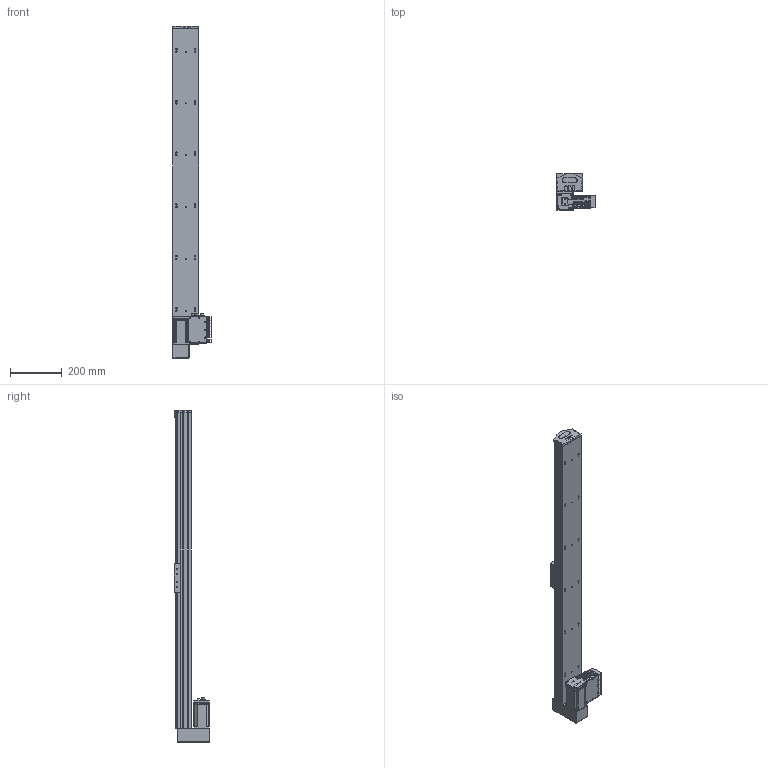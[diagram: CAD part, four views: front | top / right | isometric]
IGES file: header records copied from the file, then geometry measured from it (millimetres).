
Start section: SolidWorks IGES file using analytic representation for surfaces
Global section: file name: C:\Documents and Settings\1EDPI\Mes documents\yanize\S 10 TSH BM\S 10 TSH BM S1000.IGS; native system: SolidWorks 2010; preprocessor: SolidWorks 2010; author: 1EDPI; date: 120907.135526; units: millimetre
Bounding box: 149.38 x 138.75 x 1282 mm (x, y, z)
Surface area: 885912.9 mm2 (no closed solid volume)
Topology: 0 solids, 0 shells, 2006 faces, 27340 edges, 27308 vertices
Faces by surface type: revolution 1071, bspline 935
